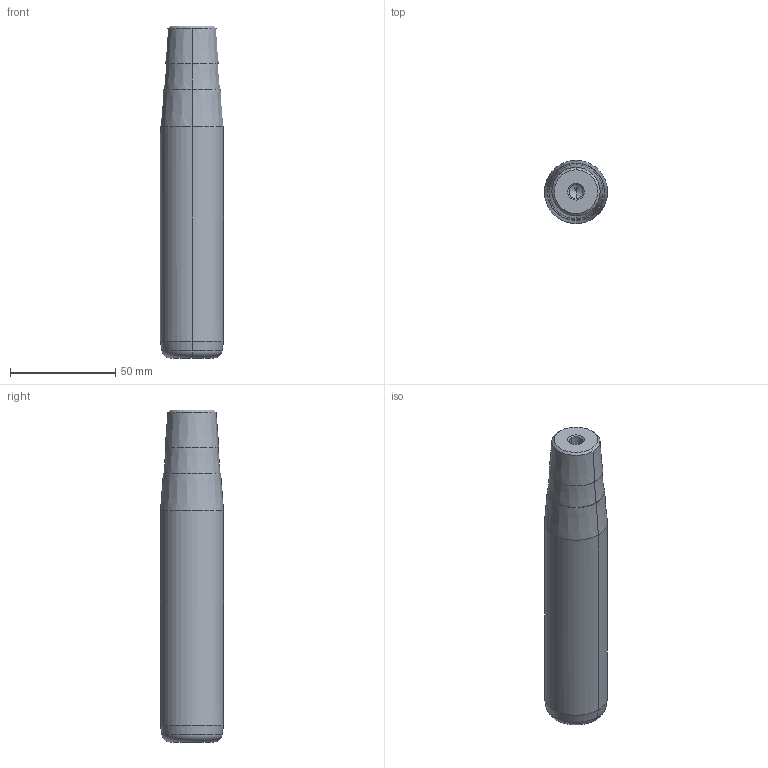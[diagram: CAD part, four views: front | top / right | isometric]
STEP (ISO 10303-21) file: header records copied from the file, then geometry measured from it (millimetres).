
FILE_DESCRIPTION(('CATIA V5 STEP Exchange'),'2;1');
FILE_NAME('C:\Users\Utente\Desktop\IO LAVORO\3D X SITO CF\X SITO\722\722-30x125x158.stp','2021-01-08T16:20:51+00:00',('none'),('none'),'CATIA Version 5 Release 20 GA (IN-10)','CATIA V5 STEP AP203','none');
FILE_SCHEMA(('CONFIG_CONTROL_DESIGN'));
Length unit declared in the file: millimetre
Products named in the file (1): 722-30x125x158
Bounding box: 30 x 30 x 158 mm (x, y, z)
Volume: 101384.9 mm3; surface area: 16306.7 mm2
Topology: 1 solids, 1 shells, 32 faces, 98 edges, 66 vertices
Faces by surface type: cone 22, cylinder 6, plane 2, torus 2
Entity records: 1166 total; most frequent: CARTESIAN_POINT 279, ORIENTED_EDGE 188, DIRECTION 148, EDGE_CURVE 94, AXIS2_PLACEMENT_3D 89, VERTEX_POINT 66, CIRCLE 56, EDGE_LOOP 34
